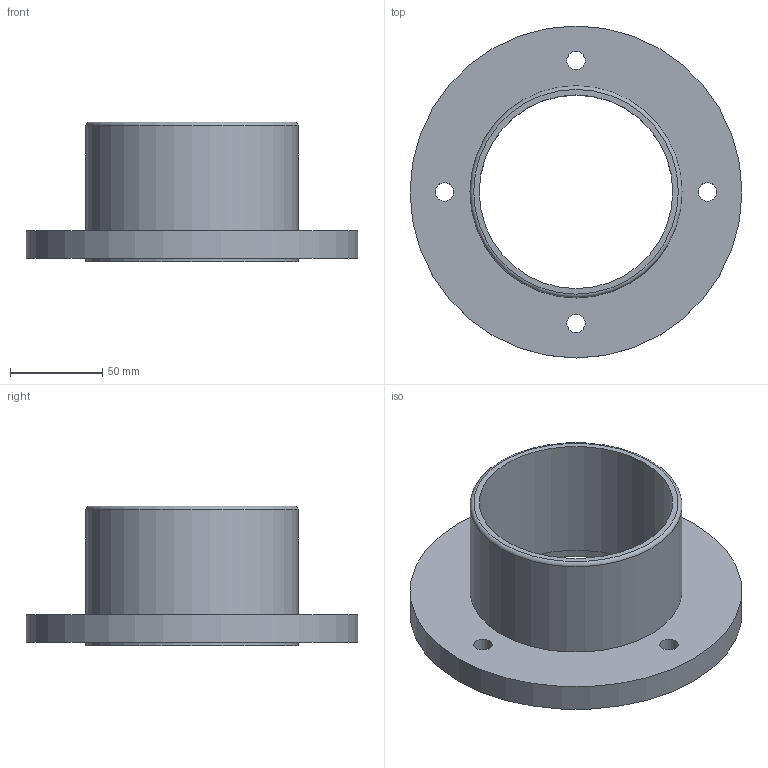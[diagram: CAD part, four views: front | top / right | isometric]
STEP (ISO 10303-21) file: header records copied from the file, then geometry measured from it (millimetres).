
FILE_DESCRIPTION(/* description */ (''),/* implementation_level */ '2;1');
FILE_NAME(/* name */ 'specimen holder flange.stp',/* time_stamp */ '2026-07-13T09:09:46+03:00',/* author */ ('USER'),/* organization */ (''),/* preprocessor_version */ 'ST-DEVELOPER v20',/* originating_system */ 'Autodesk Inventor 2025',/* authorisation */ '');
FILE_SCHEMA (('AUTOMOTIVE_DESIGN { 1 0 10303 214 3 1 1 }'));
Length unit declared in the file: millimetre
Products named in the file (1): specimen holder  flange
Bounding box: 180 x 180 x 75.8 mm (x, y, z)
Volume: 342264.9 mm3; surface area: 90148.7 mm2
Topology: 1 solids, 1 shells, 15 faces, 29 edges, 20 vertices
Faces by surface type: cylinder 9, plane 5, torus 1
Full cylindrical faces by diameter (mm): 10 x4, 105 x1, 113 x1, 115 x2, 180 x1
Entity records: 469 total; most frequent: DIRECTION 81, CARTESIAN_POINT 65, ORIENTED_EDGE 58, AXIS2_PLACEMENT_3D 36, EDGE_CURVE 29, EDGE_LOOP 28, CIRCLE 20, VERTEX_POINT 19
